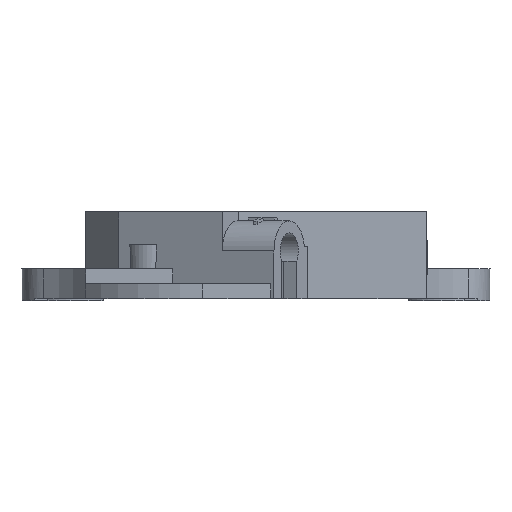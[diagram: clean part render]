
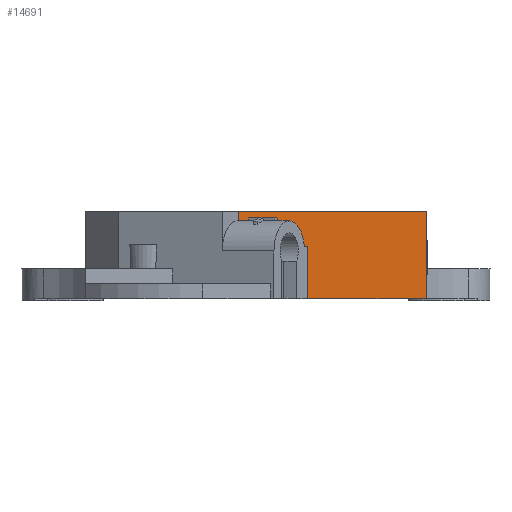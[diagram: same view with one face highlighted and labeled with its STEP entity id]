
A CAD part, left-side view. The second image highlights one B-rep face of the part: STEP entity #14691.
In plain terms, the highlighted planar face has unit normal (-1, 0, 0).
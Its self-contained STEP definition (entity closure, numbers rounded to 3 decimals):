
#9271=CARTESIAN_POINT(' ',(-13.4,1.178,5.8));
#9272=VERTEX_POINT(' ',#9271);
#9286=CARTESIAN_POINT(' ',(-13.4,1.178,5.8));
#9291=DIRECTION(' ',(0.,-1.,0.));
#9296=VECTOR(' ',#9291,1.);
#9301=LINE('',#9286,#9296);
#9306=CARTESIAN_POINT(' ',(-13.4,-11.4,5.8));
#9307=VERTEX_POINT(' ',#9306);
#9311=EDGE_CURVE(' ',#9272,#9307,#9301,.T.);
#14351=CARTESIAN_POINT(' ',(-13.4,1.178,5.196));
#14352=VERTEX_POINT(' ',#14351);
#14366=CARTESIAN_POINT(' ',(-13.4,1.178,5.196));
#14371=DIRECTION(' ',(0.,0.,1.));
#14376=VECTOR(' ',#14371,1.);
#14381=LINE('',#14366,#14376);
#14386=EDGE_CURVE(' ',#14352,#9272,#14381,.T.);
#14461=CARTESIAN_POINT(' ',(-13.4,-11.4,5.8));
#14466=DIRECTION(' ',(-1.,0.,-0.));
#14471=DIRECTION(' ',(0.,1.,0.));
#14476=AXIS2_PLACEMENT_3D(' ',#14461,#14466,#14471);
#14481=PLANE(' ',#14476);
#14486=ORIENTED_EDGE(' ',*,*,#14386,.F.);
#14491=CARTESIAN_POINT(' ',(-13.4,1.178,5.196));
#14496=CARTESIAN_POINT(' ',(-13.4,0.035,5.163));
#14501=CARTESIAN_POINT(' ',(-13.4,-1.049,4.882));
#14506=CARTESIAN_POINT(' ',(-13.4,-2.203,4.171));
#14511=CARTESIAN_POINT(' ',(-13.4,-2.5,3.847));
#14516=CARTESIAN_POINT(' ',(-13.4,-2.62,3.5));
#14521=B_SPLINE_CURVE_WITH_KNOTS('',3,(#14491,#14496,#14501,#14506,#14511,#14516),.UNSPECIFIED.,.F.,.U.,(4,2,4),(0.,0.619,1.),.UNSPECIFIED.);
#14526=CARTESIAN_POINT(' ',(-13.4,-2.62,3.5));
#14527=VERTEX_POINT(' ',#14526);
#14531=EDGE_CURVE(' ',#14352,#14527,#14521,.T.);
#14536=ORIENTED_EDGE(' ',*,*,#14531,.T.);
#14541=CARTESIAN_POINT(' ',(-13.4,-2.62,3.5));
#14546=DIRECTION(' ',(0.,-1.,0.));
#14551=VECTOR(' ',#14546,1.);
#14556=LINE('',#14541,#14551);
#14561=CARTESIAN_POINT(' ',(-13.4,-3.441,3.5));
#14562=VERTEX_POINT(' ',#14561);
#14566=EDGE_CURVE(' ',#14527,#14562,#14556,.T.);
#14571=ORIENTED_EDGE(' ',*,*,#14566,.T.);
#14576=CARTESIAN_POINT(' ',(-13.4,-3.441,0.));
#14581=DIRECTION(' ',(0.,0.,1.));
#14586=VECTOR(' ',#14581,1.);
#14591=LINE('',#14576,#14586);
#14596=CARTESIAN_POINT(' ',(-13.4,-3.441,0.));
#14597=VERTEX_POINT(' ',#14596);
#14601=EDGE_CURVE(' ',#14597,#14562,#14591,.T.);
#14606=ORIENTED_EDGE(' ',*,*,#14601,.F.);
#14611=CARTESIAN_POINT(' ',(-13.4,-3.441,0.));
#14616=DIRECTION(' ',(0.,-1.,0.));
#14621=VECTOR(' ',#14616,1.);
#14626=LINE('',#14611,#14621);
#14631=CARTESIAN_POINT(' ',(-13.4,-11.4,0.));
#14632=VERTEX_POINT(' ',#14631);
#14636=EDGE_CURVE(' ',#14597,#14632,#14626,.T.);
#14641=ORIENTED_EDGE(' ',*,*,#14636,.T.);
#14646=CARTESIAN_POINT(' ',(-13.4,-11.4,5.8));
#14651=DIRECTION(' ',(0.,0.,-1.));
#14656=VECTOR(' ',#14651,1.);
#14661=LINE('',#14646,#14656);
#14666=EDGE_CURVE(' ',#9307,#14632,#14661,.T.);
#14671=ORIENTED_EDGE(' ',*,*,#14666,.F.);
#14676=ORIENTED_EDGE(' ',*,*,#9311,.F.);
#14681=EDGE_LOOP(' ',(#14486,#14536,#14571,#14606,#14641,#14671,#14676));
#14686=FACE_OUTER_BOUND(' ',#14681,.T.);
#14691=ADVANCED_FACE('',(#14686),#14481,.T.);
